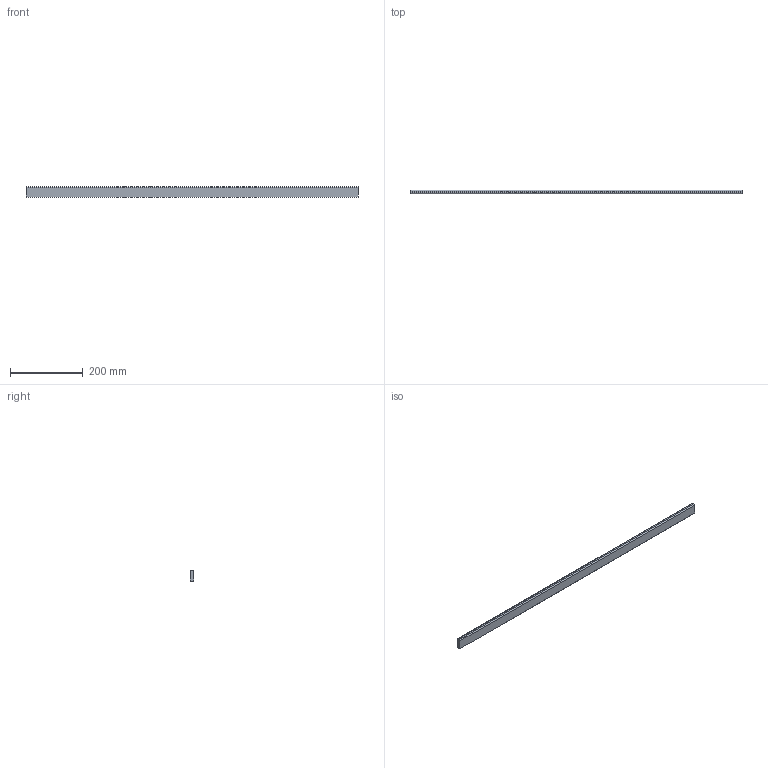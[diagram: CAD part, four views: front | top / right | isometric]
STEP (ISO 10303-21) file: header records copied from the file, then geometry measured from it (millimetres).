
FILE_DESCRIPTION (( 'STEP AP214' ), '1' );
FILE_NAME ('_Querreling_KAB-1000_KS-16.step', '2010-08-26T14:59:05', ( 'grass' ), ( '' ), 'SwSTEP 2.0', 'SolidWorks 2009', '' );
FILE_SCHEMA (( 'AUTOMOTIVE_DESIGN' ));
Length unit declared in the file: millimetre
Products named in the file (1): _Querreling_KAB-1000_KS-16
Bounding box: 912.5 x 10.5 x 30 mm (x, y, z)
Volume: 283521 mm3; surface area: 71400.7 mm2
Topology: 1 solids, 1 shells, 10 faces, 24 edges, 16 vertices
Faces by surface type: plane 6, cylinder 4
Entity records: 330 total; most frequent: DIRECTION 54, CARTESIAN_POINT 51, ORIENTED_EDGE 48, EDGE_CURVE 24, AXIS2_PLACEMENT_3D 19, LINE 16, VECTOR 16, VERTEX_POINT 16
